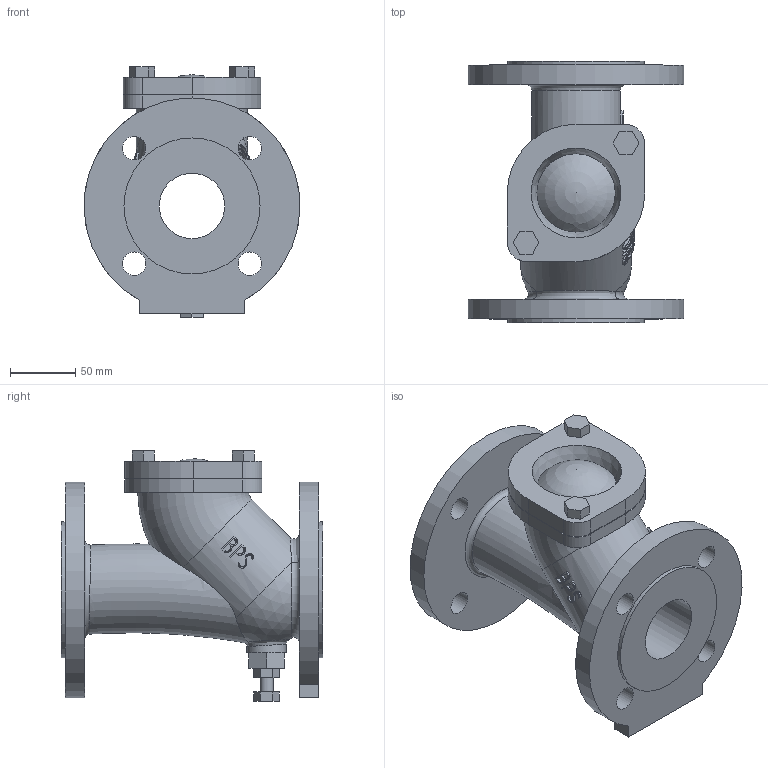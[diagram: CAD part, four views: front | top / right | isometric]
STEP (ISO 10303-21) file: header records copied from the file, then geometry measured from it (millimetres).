
FILE_DESCRIPTION( ( 'Unknown' ), '1' );
FILE_NAME( 'J:/Muud/ROOTSI BPS 3D vidinad/Kuuliga tagasiloogiklapid/STEP formaat/BPS 6538050 ball check valve DN50.stp', 'Unknown', ( 'Unknown' ), ( 'Unknown' ), 'PSStep 10.1', 'Unknown', ' ' );
FILE_SCHEMA( ( 'AUTOMOTIVE_DESIGN { 1 0 10303 214 1 1 1 1 }' ) );
Length unit declared in the file: millimetre
Products named in the file (2): 1; 2
Bounding box: 165 x 200 x 191.3 mm (x, y, z)
Volume: 1473683.4 mm3; surface area: 223748.5 mm2
Topology: 2 solids, 2 shells, 263 faces, 658 edges, 436 vertices
Faces by surface type: plane 142, bspline 61, cylinder 53, torus 4, sphere 2, cone 1
Full cylindrical faces by diameter (mm): 10 x1, 11 x4, 17.294 x1, 18 x8, 30 x1, 50 x1, 104 x2, 165 x1
Entity records: 21643 total; most frequent: CARTESIAN_POINT 14282, ORIENTED_EDGE 1220, DIRECTION 706, EDGE_CURVE 610, VERTEX_POINT 420, B_SPLINE_CURVE_WITH_KNOTS 389, EDGE_LOOP 354, FACE_OUTER_BOUND 292
